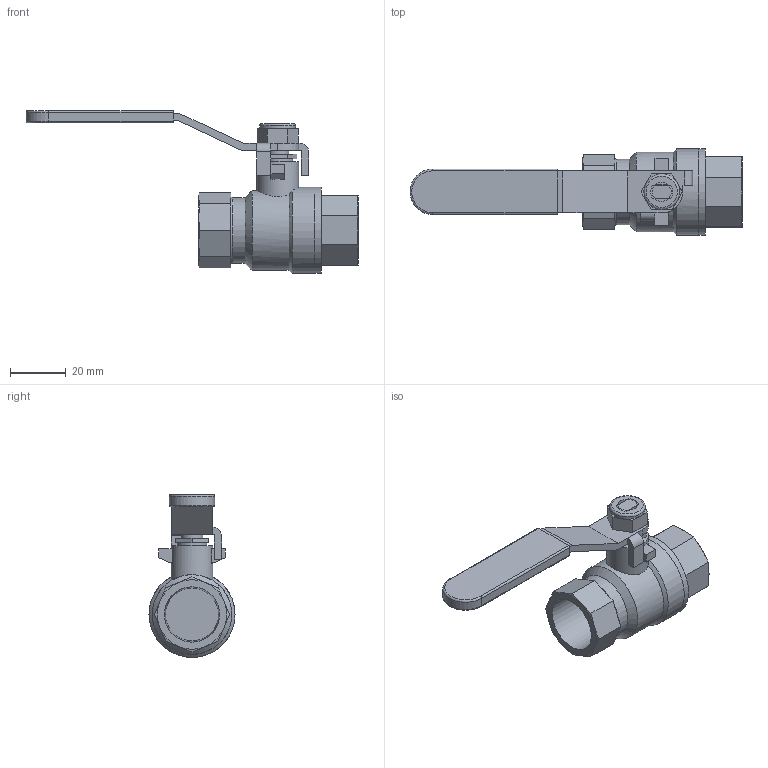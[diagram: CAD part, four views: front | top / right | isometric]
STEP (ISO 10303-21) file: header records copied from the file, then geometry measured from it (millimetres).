
FILE_DESCRIPTION((' '),'2;1');
FILE_NAME('N:\Technical Support\Private\Jomar Valve CAD\Ball Valves\Brass\.5 JF-100T (100-103)FusionCopy.stp.step','2016-04-27T16:41:12',(' '),(' '),' ','ACIS',' ');
FILE_SCHEMA(('CONFIG_CONTROL_DESIGN'));
Length unit declared in the file: inch
Products named in the file (8): N:\Technical Support\Private\Jomar Valve CAD\Ball Valves\Brass\.5 JF-100T (100-103)FusionCopy.stp.step; Body1; Body2; Body3; Body4; Body5; Body6; Body7
Assembly tree (7 placements, depth 2):
  N:\Technical Support\Private\Jomar Valve CAD\Ball Valves\Brass\.5 JF-100T (100-103)FusionCopy.stp.step
    Body1
    Body2
    Body3
    Body4
    Body5
    Body6
    Body7
Bounding box: 118.62 x 30.73 x 58.22 mm (x, y, z)
Volume: 36037 mm3; surface area: 17391.8 mm2
Topology: 7 solids, 7 shells, 144 faces, 333 edges, 209 vertices
Faces by surface type: plane 91, cylinder 23, cone 19, bspline 8, torus 3
Full cylindrical faces by diameter (mm): 6.858 x1, 7.874 x1, 8.509 x1, 10.668 x1, 12.751 x1, 14.986 x1, 23.495 x1, 28.448 x1, 30.734 x2
Entity records: 5160 total; most frequent: CARTESIAN_POINT 929, DIRECTION 665, ORIENTED_EDGE 622, EDGE_CURVE 311, AXIS2_PLACEMENT_3D 240, VERTEX_POINT 202, VECTOR 185, LINE 185
